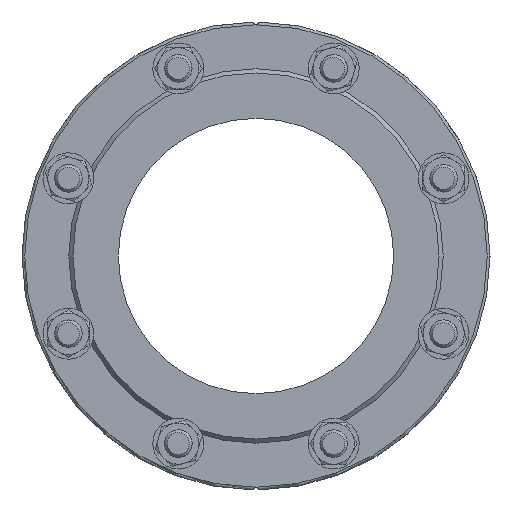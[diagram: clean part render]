
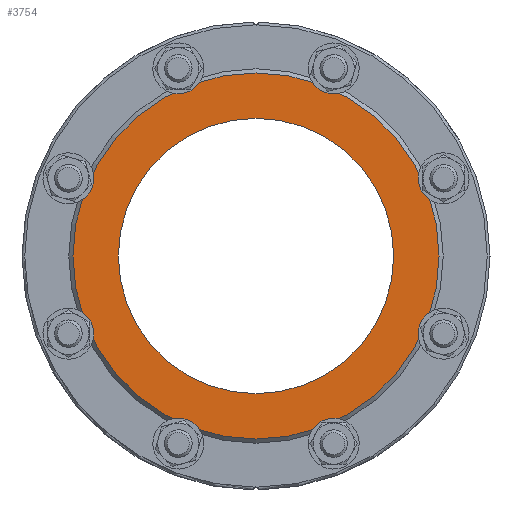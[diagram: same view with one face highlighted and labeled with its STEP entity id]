
A CAD part, left-side view. The second image highlights one B-rep face of the part: STEP entity #3754.
In plain terms, the highlighted planar face has unit normal (-1, 0, 0).
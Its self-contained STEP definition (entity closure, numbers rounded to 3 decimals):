
#3581 = CIRCLE ( 'NONE', #6116, 100. ) ;
#3754 = ADVANCED_FACE ( 'NONE', ( #10423, #8041 ), #12809, .F. ) ;
#3758 = CARTESIAN_POINT ( 'NONE',  ( -13., 0., 100. ) ) ;
#5318 = EDGE_CURVE ( 'NONE', #22562, #22562, #19388, .T. ) ;
#5752 = EDGE_LOOP ( 'NONE', ( #13301 ) ) ;
#6116 = AXIS2_PLACEMENT_3D ( 'NONE', #13283, #28187, #13594 ) ;
#6938 = CARTESIAN_POINT ( 'NONE',  ( -13., 0., -100. ) ) ;
#8041 = FACE_OUTER_BOUND ( 'NONE', #21447, .T. ) ;
#10423 = FACE_BOUND ( 'NONE', #5752, .T. ) ;
#12569 = CARTESIAN_POINT ( 'NONE',  ( -13., -133., 0. ) ) ;
#12809 = PLANE ( 'NONE',  #25441 ) ;
#13109 = DIRECTION ( 'NONE',  ( -1., 0., 0. ) ) ;
#13283 = CARTESIAN_POINT ( 'NONE',  ( -13., 0., 0. ) ) ;
#13301 = ORIENTED_EDGE ( 'NONE', *, *, #29924, .T. ) ;
#13451 = DIRECTION ( 'NONE',  ( 1., 0., 0. ) ) ;
#13594 = DIRECTION ( 'NONE',  ( 0., 0., -1. ) ) ;
#19388 = CIRCLE ( 'NONE', #21925, 133. ) ;
#21447 = EDGE_LOOP ( 'NONE', ( #26880 ) ) ;
#21925 = AXIS2_PLACEMENT_3D ( 'NONE', #30115, #13109, #22784 ) ;
#22562 = VERTEX_POINT ( 'NONE', #12569 ) ;
#22784 = DIRECTION ( 'NONE',  ( 0., -1., 0. ) ) ;
#25441 = AXIS2_PLACEMENT_3D ( 'NONE', #3758, #13451, #30296 ) ;
#26880 = ORIENTED_EDGE ( 'NONE', *, *, #5318, .T. ) ;
#28187 = DIRECTION ( 'NONE',  ( 1., 0., 0. ) ) ;
#28542 = VERTEX_POINT ( 'NONE', #6938 ) ;
#29924 = EDGE_CURVE ( 'NONE', #28542, #28542, #3581, .T. ) ;
#30115 = CARTESIAN_POINT ( 'NONE',  ( -13., 0., 0. ) ) ;
#30296 = DIRECTION ( 'NONE',  ( 0., 1., 0. ) ) ;
